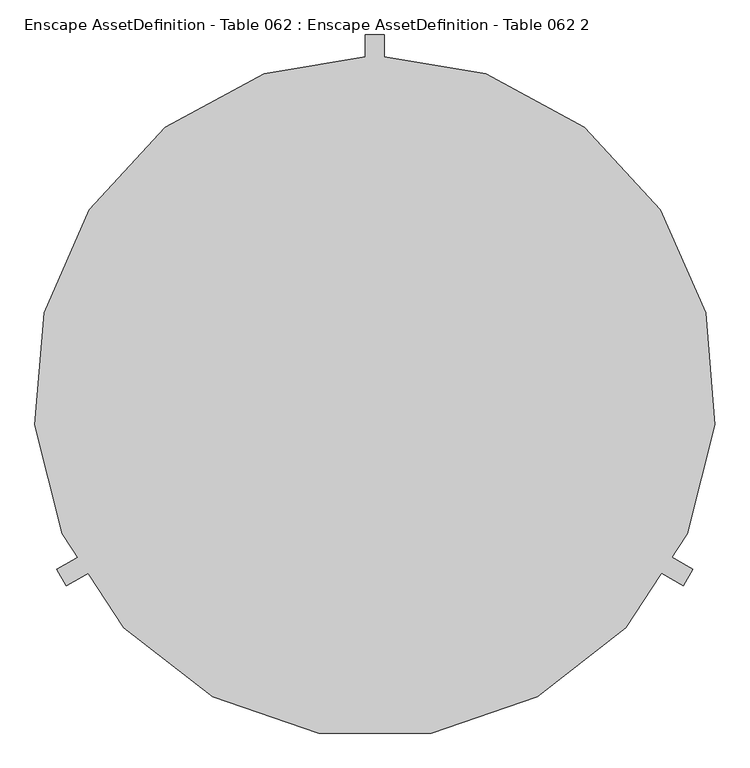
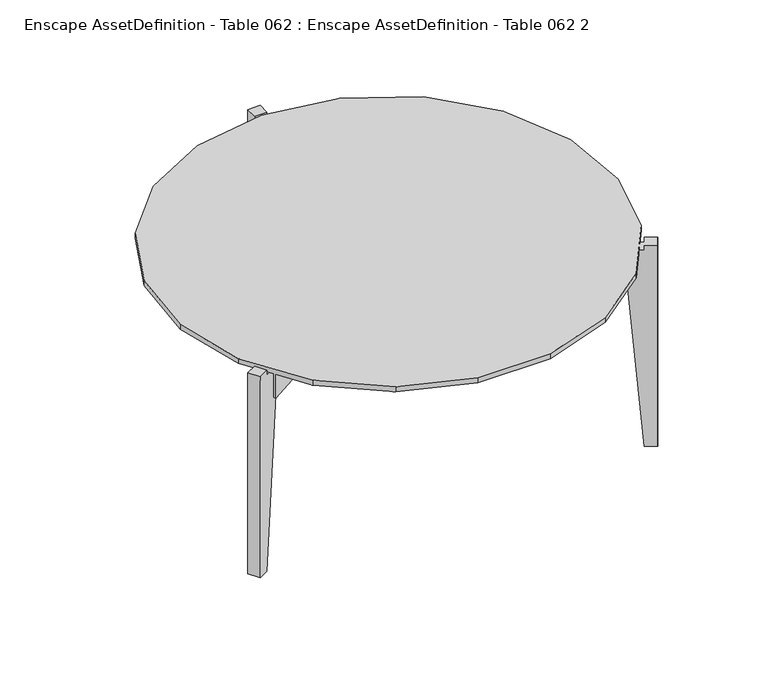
"""IFC4 building model written with IfcOpenShell, lengths in millimetres: geographic element geometry, Enscape AssetDefinition - Table 062 : Enscape AssetDefinition - Table 062 2."""

from ifc_helpers import new_model, si_unit, origin, place, context, project, spatial, triangles, source, transform, mapped, element, save


def enscape_assetdefinition_table_062_enscape_assetdefinition_d52d6286(model_context):
    return source(origin(), model_context, "Body", "Tessellation", [
        triangles([(271.130925, -501.0062287, 536.5986783), (184.969996, 538.8001428, 536.5986783), (0.0, 569.6661003, 549.9077133), (-349.8967023, 449.5466881, 536.5986783), (0.0, 569.6661003, 536.5986783), (476.9053379, 311.5775296, 536.5986783), (349.8967023, 449.5466881, 536.5986783), (552.2344972, 139.8447435, 536.5986783), (349.8967023, 449.5466881, 549.9077133), (476.9053379, 311.5775296, 549.9077133), (184.969996, 538.8001428, 549.9077133), (552.2344972, 139.8447435, 549.9077133), (567.7198892, -47.042977, 536.5986783), (521.6853444, -228.8327075, 536.5986783), (521.6853444, -228.8327075, 549.9077133), (419.1171501, -385.8241968, 536.5986783), (419.1171501, -385.8241968, 549.9077133), (271.130925, -501.0062287, 549.9077133), (93.763481, -561.8972068, 536.5986783), (-271.130925, -501.0062287, 536.5986783), (-93.763481, -561.8972068, 536.5986783), (-271.130925, -501.0062287, 549.9077133), (-93.763481, -561.8972068, 549.9077133), (-419.1171501, -385.8241968, 549.9077133), (-521.6853444, -228.8327075, 549.9077133), (-419.1171501, -385.8241968, 536.5986783), (-567.7198892, -47.042977, 549.9077133), (93.763481, -561.8972068, 549.9077133), (-521.6853444, -228.8327075, 536.5986783), (-567.7198892, -47.042977, 536.5986783), (-552.2344972, 139.8447435, 549.9077133), (-552.2344972, 139.8447435, 536.5986783), (-476.9053379, 311.5775296, 536.5986783), (567.7198892, -47.042977, 549.9077133), (-476.9053379, 311.5775296, 549.9077133), (-349.8967023, 449.5466881, 549.9077133), (-184.969996, 538.8001428, 549.9077133), (-184.969996, 538.8001428, 536.5986783), (-15.9183813, 603.9413338, 550.0000042), (15.9183813, 603.9413338, 0.0), (15.9183813, 573.5710582, 0.0), (-15.9183813, 603.9413338, 0.0), (-15.9183813, 573.5710582, 535.7463684), (-15.9183813, 573.5710582, 0.0), (15.9183813, 527.6333462, 535.7463684), (-15.9183813, 527.6333462, 535.7463684), (15.9183813, 573.5710582, 550.0000042), (15.9183813, 603.9413338, 550.0000042), (15.9183813, 573.5710582, 535.7463684), (-15.9183813, 573.5710582, 550.0000042), (-515.0684155, -315.757071, 0.0), (-504.6867454, -272.9996518, 0.0), (-530.9879743, -288.1842264, 0.0), (-488.7683493, -300.5725327, 0.0), (-504.6867454, -272.9996518, 550.0000042), (-504.6867454, -272.9996518, 535.7463684), (-488.7683493, -300.5725327, 535.7463684), (-448.9849491, -277.6030954, 535.7463684), (-464.9033089, -250.0302508, 535.7463684), (-530.9879743, -288.1842264, 550.0000042), (-515.0684155, -315.757071, 550.0000042), (-488.7683493, -300.5725327, 550.0000042), (530.9879743, -288.1842264, 0.0), (530.9879743, -288.1842264, 550.0000042), (515.0684155, -315.755981, 0.0), (504.6867454, -272.9996518, 0.0), (448.9849491, -277.6030954, 535.7463684), (488.7683493, -300.57137, 0.0), (464.9033089, -250.0302508, 535.7463684), (504.6867454, -272.9996518, 535.7463684), (504.6867454, -272.9996518, 550.0000042), (488.7683493, -300.57137, 550.0000042), (488.7683493, -300.57137, 535.7463684), (515.0684155, -315.755981, 550.0000042), (-482.6266457, -252.7649676, 530.3863031), (-336.1376221, -194.0561056, 457.2392418), (-342.7134925, -182.6682651, 457.2392418), (-476.7469537, -264.5014968, 457.2392418), (-342.7134925, -182.6682651, 530.3863031), (-482.6266457, -252.7649676, 457.2392418), (-476.7469537, -264.5014968, 530.3863031), (-336.1376221, -194.0561056, 530.3863031), (-278.0680198, -135.7677122, 457.2392418), (-278.0680198, -135.7677122, 530.3863031), (-21.1804477, 308.5374172, 530.3863031), (-32.7506149, 314.7486297, 530.3863031), (-289.2507674, -128.8841934, 457.2392418), (-289.2507674, -128.8841934, 530.3863031), (-21.1804477, 308.5374172, 457.2392418), (-13.1620055, 388.1384451, 530.3863031), (-32.7506149, 314.7486297, 457.2392418), (-22.1603911, 544.3892275, 530.3863031), (-22.1603911, 544.3892275, 457.2392418), (-13.1620055, 388.1384451, 457.2392418), (-9.0553589, 545.1435782, 530.3863031), (-0.0136736, 388.1315778, 530.3863031), (-9.0553589, 545.1435782, 457.2392418), (-0.0136736, 388.1315778, 457.2392418), (460.2144236, -291.5843822, 530.3863031), (336.1262129, -194.0754903, 457.2392418), (329.5526679, -205.4644754, 457.2392418), (460.2144236, -291.5843822, 457.2392418), (256.6118076, -172.9303602, 457.2392418), (467.4386192, -280.625004, 530.3863031), (467.4386192, -280.625004, 457.2392418), (336.1262129, -194.0754903, 530.3863031), (256.6118076, -172.9303602, 530.3863031), (-256.6106631, -172.6113027, 457.2392418), (-256.2050374, -185.7379905, 457.2392418), (329.5526679, -205.4644754, 530.3863031), (256.2426078, -186.0570481, 530.3863031), (256.2426078, -186.0570481, 457.2392418), (-256.6106631, -172.6113027, 530.3863031), (-256.2050374, -185.7379905, 530.3863031), (-460.3738978, -291.3861385, 530.3863031), (-329.5572098, -205.4678909, 530.3863031), (-467.5810524, -280.4141883, 457.2392418), (-336.1251228, -194.0777613, 530.3863031), (-336.1251228, -194.0777613, 457.2392418), (-467.5810524, -280.4141883, 530.3863031), (-460.3738978, -291.3861385, 457.2392418), (-329.5572098, -205.4678909, 457.2392418), (13.1608666, 388.1339032, 457.2392418), (22.4122153, 544.349368, 530.3863031), (22.4122153, 544.349368, 457.2392418), (9.308322, 545.1253381, 530.3863031), (9.308322, 545.1253381, 457.2392418), (0.0113947, 388.1315778, 457.2392418), (0.0113947, 388.1315778, 530.3863031), (13.1608666, 388.1339032, 530.3863031), (21.4561985, 308.6969642, 530.3863031), (277.791129, -135.9261146, 530.3863031), (21.4561985, 308.6969642, 457.2392418), (288.9567992, -129.0118019, 530.3863031), (33.0081369, 314.9412415, 530.3863031), (288.9567992, -129.0118019, 457.2392418), (336.1387848, -194.0538347, 530.3863031), (482.5343184, -253.0031253, 457.2392418), (342.7191971, -182.670536, 530.3863031), (476.6364226, -264.7294081, 530.3863031), (476.6364226, -264.7294081, 457.2392418), (482.5343184, -253.0031253, 530.3863031), (342.7191971, -182.670536, 457.2392418), (336.1387848, -194.0538347, 457.2392418), (277.791129, -135.9261146, 457.2392418), (33.0081369, 314.9412415, 457.2392418)], [[136, 133, 146], [136, 145, 133], [143, 144, 145], [143, 141, 144], [143, 145, 136], [143, 138, 141], [142, 141, 138], [142, 140, 141], [145, 144, 137], [137, 144, 141], [137, 141, 140], [139, 137, 140], [138, 143, 139], [139, 140, 142], [136, 139, 143], [138, 139, 142], [132, 137, 139], [145, 137, 132], [136, 134, 139], [132, 139, 134], [130, 135, 146], [136, 146, 135], [136, 135, 134], [134, 135, 131], [131, 133, 145], [134, 131, 132], [131, 145, 132], [130, 131, 135], [130, 129, 131], [129, 133, 131], [130, 126, 129], [129, 128, 133], [126, 128, 129], [126, 127, 128], [125, 127, 126], [130, 124, 126], [125, 126, 124], [123, 128, 127], [123, 146, 133], [123, 125, 124], [123, 127, 125], [130, 146, 123], [123, 133, 128], [123, 124, 130], [109, 103, 112], [109, 108, 103], [122, 119, 108], [122, 117, 119], [122, 108, 109], [122, 121, 117], [115, 117, 121], [115, 120, 117], [108, 119, 118], [118, 119, 117], [118, 117, 120], [116, 118, 120], [121, 122, 116], [116, 120, 115], [109, 116, 122], [121, 116, 115], [113, 118, 116], [108, 118, 113], [109, 114, 116], [113, 116, 114], [110, 111, 112], [109, 112, 111], [109, 111, 114], [114, 111, 107], [107, 103, 108], [114, 107, 113], [107, 108, 113], [110, 107, 111], [110, 106, 107], [106, 103, 107], [110, 104, 106], [106, 100, 103], [104, 100, 106], [104, 105, 100], [102, 105, 104], [110, 99, 104], [102, 104, 99], [101, 100, 105], [101, 112, 103], [101, 102, 99], [101, 105, 102], [110, 112, 101], [101, 103, 100], [101, 99, 110], [91, 83, 87], [91, 89, 83], [94, 98, 89], [94, 97, 98], [94, 89, 91], [94, 93, 97], [92, 97, 93], [92, 95, 97], [89, 98, 96], [96, 98, 97], [96, 97, 95], [90, 96, 95], [93, 94, 90], [90, 95, 92], [91, 90, 94], [93, 90, 92], [85, 96, 90], [89, 96, 85], [91, 86, 90], [85, 90, 86], [79, 88, 87], [91, 87, 88], [91, 88, 86], [86, 88, 84], [84, 83, 89], [86, 84, 85], [84, 89, 85], [79, 84, 88], [79, 82, 84], [82, 83, 84], [79, 81, 82], [82, 76, 83], [81, 76, 82], [81, 78, 76], [80, 78, 81], [79, 75, 81], [80, 81, 75], [77, 76, 78], [77, 87, 83], [77, 80, 75], [77, 78, 80], [79, 87, 77], [77, 83, 76], [77, 75, 79], [72, 64, 71], [72, 74, 64], [64, 74, 65], [65, 74, 73], [74, 72, 73], [70, 71, 64], [72, 71, 70], [72, 70, 73], [70, 69, 67], [70, 67, 73], [66, 69, 70], [67, 69, 66], [68, 65, 73], [73, 67, 68], [67, 66, 68], [63, 66, 70], [63, 65, 68], [70, 64, 63], [64, 65, 63], [63, 68, 66], [55, 61, 62], [55, 60, 61], [61, 60, 53], [53, 60, 56], [60, 55, 56], [56, 58, 59], [56, 57, 58], [57, 62, 61], [55, 62, 57], [55, 57, 56], [54, 58, 57], [59, 58, 54], [52, 53, 56], [56, 59, 52], [59, 54, 52], [51, 54, 57], [51, 53, 52], [57, 61, 51], [61, 53, 51], [51, 52, 54], [47, 39, 50], [47, 48, 39], [39, 48, 40], [40, 48, 49], [48, 47, 49], [43, 50, 39], [47, 50, 43], [47, 43, 49], [43, 46, 45], [43, 45, 49], [44, 46, 43], [45, 46, 44], [41, 40, 49], [49, 45, 41], [45, 44, 41], [42, 44, 43], [42, 40, 41], [43, 39, 42], [39, 40, 42], [42, 41, 44], [38, 37, 3], [11, 3, 37], [4, 37, 38], [4, 36, 37], [33, 36, 4], [33, 35, 36], [28, 34, 35], [11, 37, 35], [37, 36, 35], [34, 11, 35], [32, 33, 4], [32, 35, 33], [32, 31, 35], [35, 31, 28], [30, 31, 32], [30, 27, 31], [29, 30, 32], [29, 27, 30], [29, 25, 27], [31, 25, 28], [31, 27, 25], [32, 4, 26], [26, 29, 32], [26, 25, 29], [26, 24, 25], [20, 24, 26], [20, 22, 24], [25, 22, 28], [25, 24, 22], [22, 23, 28], [21, 23, 22], [21, 20, 26], [21, 22, 20], [19, 28, 23], [19, 23, 21], [1, 21, 26], [1, 19, 21], [1, 28, 19], [1, 18, 28], [28, 18, 34], [16, 18, 1], [16, 17, 18], [18, 17, 34], [17, 15, 34], [14, 15, 17], [14, 16, 1], [14, 17, 16], [13, 34, 15], [13, 15, 14], [8, 12, 34], [8, 14, 1], [8, 13, 14], [8, 34, 13], [6, 12, 8], [6, 10, 12], [34, 10, 11], [34, 12, 10], [10, 9, 11], [7, 9, 10], [7, 8, 1], [7, 6, 8], [7, 10, 6], [2, 11, 9], [2, 9, 7], [5, 3, 11], [5, 7, 1], [4, 5, 26], [5, 2, 7], [4, 38, 5], [38, 3, 5], [5, 11, 2], [5, 1, 26]]),
    ])


if __name__ == "__main__":
    model = new_model("IFC4")
    model_context = context("Model", 3, world=origin())
    ifc_project = project(units=[si_unit("LENGTHUNIT", "METRE", prefix="MILLI")], contexts=[model_context])
    site = spatial("IfcSite", under=ifc_project)
    building = spatial("IfcBuilding", under=site)
    placement = place(None, origin())
    enscape_assetdefinition_table_062_enscape_assetdefinition_shape = enscape_assetdefinition_table_062_enscape_assetdefinition_d52d6286(model_context)
    element("IfcGeographicElement", 1, ObjectType="Enscape AssetDefinition - Table 062 : Enscape AssetDefinition - Table 062 2", at=placement, inside=building, context=model_context, shape_type="MappedRepresentation", body=[
        mapped(enscape_assetdefinition_table_062_enscape_assetdefinition_shape, transform((0.0, 0.0, 0.0), x_axis=(1.0, 0.0, 0.0), y_axis=(0.0, 1.0, 0.0), z_axis=(0.0, 0.0, 1.0))),
    ])
    save(model, "model.ifc")
